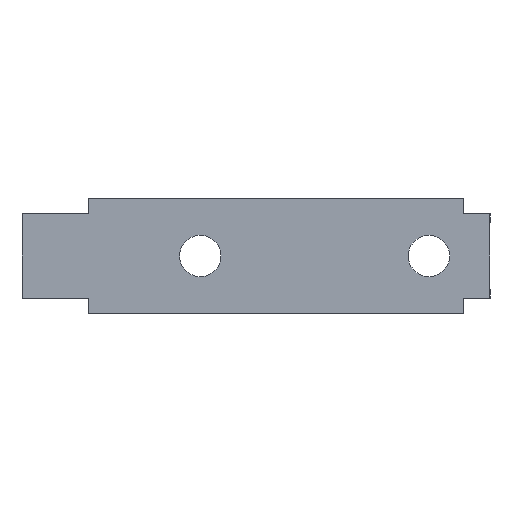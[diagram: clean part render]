
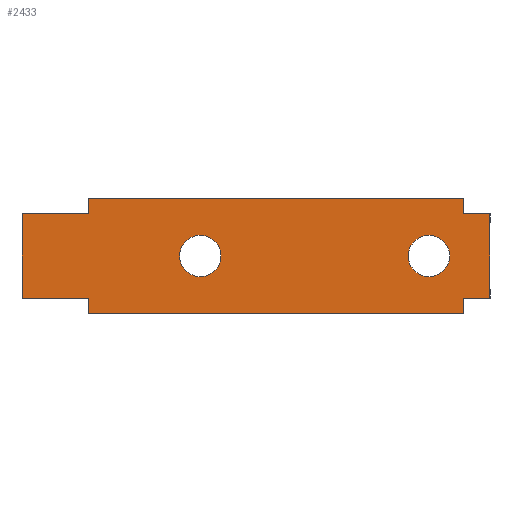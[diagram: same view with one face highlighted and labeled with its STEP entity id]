
A CAD part, left-side view. The second image highlights one B-rep face of the part: STEP entity #2433.
In plain terms, the highlighted planar face has unit normal (-1, 0, 0).
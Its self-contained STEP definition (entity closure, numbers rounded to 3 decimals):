
#5 = FACE_BOUND ( 'NONE', #389, .T. ) ;
#9 = FACE_BOUND ( 'NONE', #391, .T. ) ;
#49 = FACE_OUTER_BOUND ( 'NONE', #392, .T. ) ;
#82 = ORIENTED_EDGE ( 'NONE', *, *, #1183, .F. ) ;
#83 = ORIENTED_EDGE ( 'NONE', *, *, #1104, .F. ) ;
#84 = ORIENTED_EDGE ( 'NONE', *, *, #1181, .T. ) ;
#85 = ORIENTED_EDGE ( 'NONE', *, *, #1159, .F. ) ;
#86 = ORIENTED_EDGE ( 'NONE', *, *, #1165, .F. ) ;
#87 = ORIENTED_EDGE ( 'NONE', *, *, #1184, .F. ) ;
#88 = ORIENTED_EDGE ( 'NONE', *, *, #1091, .F. ) ;
#89 = ORIENTED_EDGE ( 'NONE', *, *, #1155, .F. ) ;
#90 = ORIENTED_EDGE ( 'NONE', *, *, #1177, .F. ) ;
#91 = ORIENTED_EDGE ( 'NONE', *, *, #1149, .T. ) ;
#92 = ORIENTED_EDGE ( 'NONE', *, *, #1197, .F. ) ;
#93 = ORIENTED_EDGE ( 'NONE', *, *, #1164, .F. ) ;
#94 = ORIENTED_EDGE ( 'NONE', *, *, #1187, .F. ) ;
#95 = ORIENTED_EDGE ( 'NONE', *, *, #1167, .T. ) ;
#389 = EDGE_LOOP ( 'NONE', ( #1495, #1493 ) ) ;
#391 = EDGE_LOOP ( 'NONE', ( #82, #83 ) ) ;
#392 = EDGE_LOOP ( 'NONE', ( #84, #85, #86, #87, #88, #89, #90, #91, #92, #93, #94, #95 ) ) ;
#764 = DIRECTION ( 'NONE',  ( 0., 1., 0. ) ) ;
#765 = DIRECTION ( 'NONE',  ( -1., 0., 0. ) ) ;
#766 = CARTESIAN_POINT ( 'NONE',  ( 0.65, 0., 0. ) ) ;
#851 = DIRECTION ( 'NONE',  ( 0., 1., 0. ) ) ;
#852 = CARTESIAN_POINT ( 'NONE',  ( 0.65, -8.55, -5.9 ) ) ;
#872 = DIRECTION ( 'NONE',  ( 0., -1., 0. ) ) ;
#873 = CARTESIAN_POINT ( 'NONE',  ( 0.65, -8.55, 5.9 ) ) ;
#879 = DIRECTION ( 'NONE',  ( 0., 0., 1. ) ) ;
#880 = CARTESIAN_POINT ( 'NONE',  ( 0.65, 56.95, 5.9 ) ) ;
#881 = DIRECTION ( 'NONE',  ( 0., 1., 0. ) ) ;
#882 = DIRECTION ( 'NONE',  ( -1., 0., 0. ) ) ;
#884 = CARTESIAN_POINT ( 'NONE',  ( 0.65, 0., 0. ) ) ;
#885 = DIRECTION ( 'NONE',  ( 0., 1., 0. ) ) ;
#887 = DIRECTION ( 'NONE',  ( -1., 0., 0. ) ) ;
#889 = DIRECTION ( 'NONE',  ( 0., 1., 0. ) ) ;
#890 = CARTESIAN_POINT ( 'NONE',  ( 0.65, 32., 0. ) ) ;
#897 = CARTESIAN_POINT ( 'NONE',  ( 0.65, 47.6, 8. ) ) ;
#898 = DIRECTION ( 'NONE',  ( 0., 1., 0. ) ) ;
#908 = CARTESIAN_POINT ( 'NONE',  ( 0.65, 47.6, -8. ) ) ;
#919 = DIRECTION ( 'NONE',  ( 0., 0., 1. ) ) ;
#920 = CARTESIAN_POINT ( 'NONE',  ( 0.65, -4.9, -8. ) ) ;
#924 = DIRECTION ( 'NONE',  ( 0., -1., 0. ) ) ;
#927 = DIRECTION ( 'NONE',  ( 0., 0., -1. ) ) ;
#928 = CARTESIAN_POINT ( 'NONE',  ( 0.65, -8.55, 5.9 ) ) ;
#932 = CARTESIAN_POINT ( 'NONE',  ( 0.65, 47.6, 5.9 ) ) ;
#937 = DIRECTION ( 'NONE',  ( 0., 0., 1. ) ) ;
#945 = DIRECTION ( 'NONE',  ( 0., 0., 1. ) ) ;
#946 = CARTESIAN_POINT ( 'NONE',  ( 0.65, 47.6, -8. ) ) ;
#949 = CARTESIAN_POINT ( 'NONE',  ( 0.65, 47.6, -8. ) ) ;
#959 = DIRECTION ( 'NONE',  ( 0., 0., 1. ) ) ;
#960 = CARTESIAN_POINT ( 'NONE',  ( 0.65, -4.9, -8. ) ) ;
#1035 = AXIS2_PLACEMENT_3D ( 'NONE', #2017, #2012, #2008 ) ;
#1066 = AXIS2_PLACEMENT_3D ( 'NONE', #890, #887, #885 ) ;
#1069 = AXIS2_PLACEMENT_3D ( 'NONE', #884, #882, #881 ) ;
#1071 = AXIS2_PLACEMENT_3D ( 'NONE', #766, #765, #764 ) ;
#1076 = AXIS2_PLACEMENT_3D ( 'NONE', #1349, #1348, #1347 ) ;
#1078 = EDGE_CURVE ( 'NONE', #1469, #1335, #1729, .T. ) ;
#1091 = EDGE_CURVE ( 'NONE', #1389, #1384, #1713, .T. ) ;
#1104 = EDGE_CURVE ( 'NONE', #1378, #1367, #1678, .T. ) ;
#1149 = EDGE_CURVE ( 'NONE', #1368, #1360, #1592, .T. ) ;
#1155 = EDGE_CURVE ( 'NONE', #1399, #1389, #1579, .T. ) ;
#1159 = EDGE_CURVE ( 'NONE', #1313, #1480, #1590, .T. ) ;
#1164 = EDGE_CURVE ( 'NONE', #1442, #1365, #1561, .T. ) ;
#1165 = EDGE_CURVE ( 'NONE', #1460, #1313, #1580, .T. ) ;
#1167 = EDGE_CURVE ( 'NONE', #1440, #1470, #1553, .T. ) ;
#1177 = EDGE_CURVE ( 'NONE', #1368, #1399, #1558, .T. ) ;
#1181 = EDGE_CURVE ( 'NONE', #1470, #1480, #1526, .T. ) ;
#1182 = EDGE_CURVE ( 'NONE', #1335, #1469, #1523, .T. ) ;
#1183 = EDGE_CURVE ( 'NONE', #1367, #1378, #1521, .T. ) ;
#1184 = EDGE_CURVE ( 'NONE', #1384, #1460, #1524, .T. ) ;
#1187 = EDGE_CURVE ( 'NONE', #1440, #1442, #1527, .T. ) ;
#1197 = EDGE_CURVE ( 'NONE', #1365, #1360, #1803, .T. ) ;
#1307 = DIRECTION ( 'NONE',  ( 0., 1., 0. ) ) ;
#1311 = CARTESIAN_POINT ( 'NONE',  ( 0.65, 47.6, -5.9 ) ) ;
#1313 = VERTEX_POINT ( 'NONE', #2366 ) ;
#1335 = VERTEX_POINT ( 'NONE', #2381 ) ;
#1347 = DIRECTION ( 'NONE',  ( 0., 1., 0. ) ) ;
#1348 = DIRECTION ( 'NONE',  ( -1., 0., 0. ) ) ;
#1349 = CARTESIAN_POINT ( 'NONE',  ( 0.65, 32., 0. ) ) ;
#1360 = VERTEX_POINT ( 'NONE', #2375 ) ;
#1365 = VERTEX_POINT ( 'NONE', #2371 ) ;
#1367 = VERTEX_POINT ( 'NONE', #2376 ) ;
#1368 = VERTEX_POINT ( 'NONE', #2380 ) ;
#1378 = VERTEX_POINT ( 'NONE', #2360 ) ;
#1384 = VERTEX_POINT ( 'NONE', #2320 ) ;
#1389 = VERTEX_POINT ( 'NONE', #2325 ) ;
#1399 = VERTEX_POINT ( 'NONE', #2335 ) ;
#1440 = VERTEX_POINT ( 'NONE', #2297 ) ;
#1442 = VERTEX_POINT ( 'NONE', #2295 ) ;
#1460 = VERTEX_POINT ( 'NONE', #2221 ) ;
#1469 = VERTEX_POINT ( 'NONE', #2232 ) ;
#1470 = VERTEX_POINT ( 'NONE', #2233 ) ;
#1480 = VERTEX_POINT ( 'NONE', #2246 ) ;
#1493 = ORIENTED_EDGE ( 'NONE', *, *, #1078, .F. ) ;
#1495 = ORIENTED_EDGE ( 'NONE', *, *, #1182, .F. ) ;
#1519 = VECTOR ( 'NONE', #872, 1000. ) ;
#1521 = CIRCLE ( 'NONE', #1069, 2.9 ) ;
#1523 = CIRCLE ( 'NONE', #1066, 2.9 ) ;
#1524 = LINE ( 'NONE', #880, #1531 ) ;
#1526 = LINE ( 'NONE', #897, #1530 ) ;
#1527 = LINE ( 'NONE', #873, #1519 ) ;
#1530 = VECTOR ( 'NONE', #889, 1000. ) ;
#1531 = VECTOR ( 'NONE', #879, 1000. ) ;
#1532 = VECTOR ( 'NONE', #898, 1000. ) ;
#1552 = VECTOR ( 'NONE', #919, 1000. ) ;
#1553 = LINE ( 'NONE', #920, #1552 ) ;
#1558 = LINE ( 'NONE', #908, #1532 ) ;
#1559 = VECTOR ( 'NONE', #924, 1000. ) ;
#1560 = VECTOR ( 'NONE', #927, 1000. ) ;
#1561 = LINE ( 'NONE', #928, #1560 ) ;
#1571 = VECTOR ( 'NONE', #937, 1000. ) ;
#1578 = VECTOR ( 'NONE', #945, 1000. ) ;
#1579 = LINE ( 'NONE', #946, #1578 ) ;
#1580 = LINE ( 'NONE', #932, #1559 ) ;
#1590 = LINE ( 'NONE', #949, #1571 ) ;
#1591 = VECTOR ( 'NONE', #959, 1000. ) ;
#1592 = LINE ( 'NONE', #960, #1591 ) ;
#1678 = CIRCLE ( 'NONE', #1071, 2.9 ) ;
#1706 = VECTOR ( 'NONE', #1307, 1000. ) ;
#1713 = LINE ( 'NONE', #1311, #1706 ) ;
#1729 = CIRCLE ( 'NONE', #1076, 2.9 ) ;
#1803 = LINE ( 'NONE', #852, #1804 ) ;
#1804 = VECTOR ( 'NONE', #851, 1000. ) ;
#2008 = DIRECTION ( 'NONE',  ( 0., -1., 0. ) ) ;
#2012 = DIRECTION ( 'NONE',  ( 1., 0., 0. ) ) ;
#2017 = CARTESIAN_POINT ( 'NONE',  ( 0.65, 47.6, -8. ) ) ;
#2019 = PLANE ( 'NONE',  #1035 ) ;
#2221 = CARTESIAN_POINT ( 'NONE',  ( 0.65, 56.95, 5.9 ) ) ;
#2232 = CARTESIAN_POINT ( 'NONE',  ( 0.65, 29.1, 0. ) ) ;
#2233 = CARTESIAN_POINT ( 'NONE',  ( 0.65, -4.9, 8. ) ) ;
#2246 = CARTESIAN_POINT ( 'NONE',  ( 0.65, 47.6, 8. ) ) ;
#2295 = CARTESIAN_POINT ( 'NONE',  ( 0.65, -8.55, 5.9 ) ) ;
#2297 = CARTESIAN_POINT ( 'NONE',  ( 0.65, -4.9, 5.9 ) ) ;
#2320 = CARTESIAN_POINT ( 'NONE',  ( 0.65, 56.95, -5.9 ) ) ;
#2325 = CARTESIAN_POINT ( 'NONE',  ( 0.65, 47.6, -5.9 ) ) ;
#2335 = CARTESIAN_POINT ( 'NONE',  ( 0.65, 47.6, -8. ) ) ;
#2360 = CARTESIAN_POINT ( 'NONE',  ( 0.65, -2.9, 0. ) ) ;
#2366 = CARTESIAN_POINT ( 'NONE',  ( 0.65, 47.6, 5.9 ) ) ;
#2371 = CARTESIAN_POINT ( 'NONE',  ( 0.65, -8.55, -5.9 ) ) ;
#2375 = CARTESIAN_POINT ( 'NONE',  ( 0.65, -4.9, -5.9 ) ) ;
#2376 = CARTESIAN_POINT ( 'NONE',  ( 0.65, 2.9, 0. ) ) ;
#2380 = CARTESIAN_POINT ( 'NONE',  ( 0.65, -4.9, -8. ) ) ;
#2381 = CARTESIAN_POINT ( 'NONE',  ( 0.65, 34.9, 0. ) ) ;
#2433 = ADVANCED_FACE ( 'NONE', ( #5, #9, #49 ), #2019, .F. ) ;
